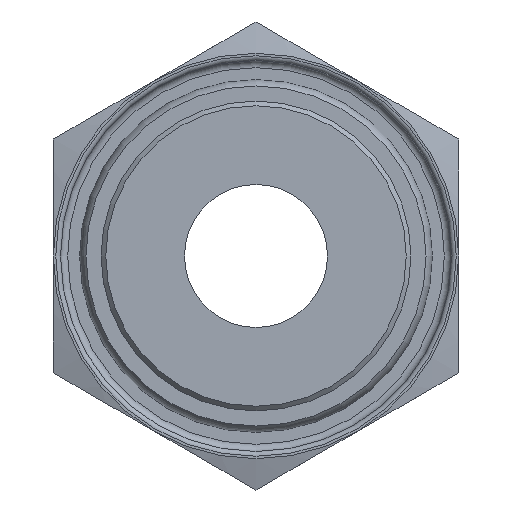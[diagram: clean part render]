
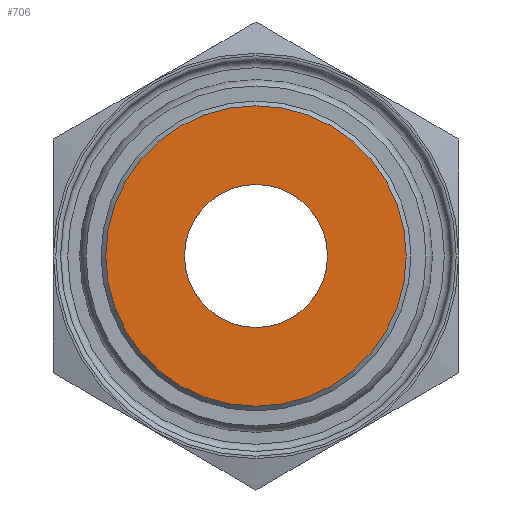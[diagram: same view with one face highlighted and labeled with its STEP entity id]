
A CAD part, front view. The second image highlights one B-rep face of the part: STEP entity #706.
In plain terms, the highlighted planar face has unit normal (0, -1, 0).
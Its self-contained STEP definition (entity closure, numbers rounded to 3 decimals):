
#72=FACE_BOUND('',#175,.T.);
#84=PLANE('',#861);
#121=FACE_OUTER_BOUND('',#174,.T.);
#174=EDGE_LOOP('',(#546));
#175=EDGE_LOOP('',(#547));
#256=CIRCLE('',#814,3.);
#288=CIRCLE('',#860,6.3);
#314=VERTEX_POINT('',#1178);
#341=VERTEX_POINT('',#1257);
#377=EDGE_CURVE('',#314,#314,#256,.T.);
#416=EDGE_CURVE('',#341,#341,#288,.T.);
#546=ORIENTED_EDGE('',*,*,#416,.F.);
#547=ORIENTED_EDGE('',*,*,#377,.T.);
#706=ADVANCED_FACE('',(#121,#72),#84,.T.);
#814=AXIS2_PLACEMENT_3D('',#1179,#932,#933);
#860=AXIS2_PLACEMENT_3D('',#1259,#1031,#1032);
#861=AXIS2_PLACEMENT_3D('',#1260,#1033,#1034);
#932=DIRECTION('center_axis',(0.,1.,0.));
#933=DIRECTION('ref_axis',(1.,0.,0.));
#1031=DIRECTION('center_axis',(0.,1.,0.));
#1032=DIRECTION('ref_axis',(1.,0.,0.));
#1033=DIRECTION('center_axis',(0.,-1.,0.));
#1034=DIRECTION('ref_axis',(0.,0.,-1.));
#1178=CARTESIAN_POINT('',(-3.,-8.,0.));
#1179=CARTESIAN_POINT('Origin',(0.,-8.,0.));
#1257=CARTESIAN_POINT('',(-6.3,-8.,0.));
#1259=CARTESIAN_POINT('Origin',(0.,-8.,0.));
#1260=CARTESIAN_POINT('Origin',(-6.5,-8.,0.));
